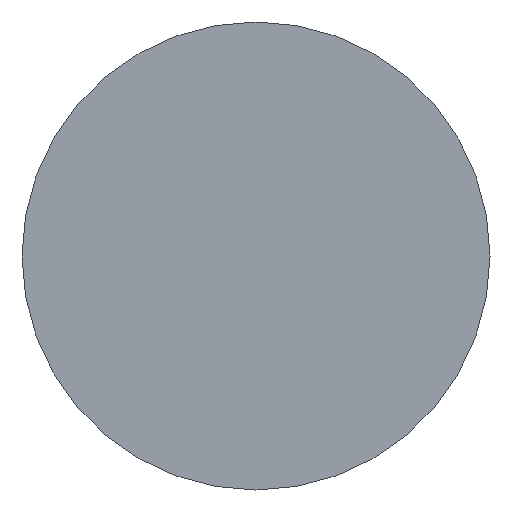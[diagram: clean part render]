
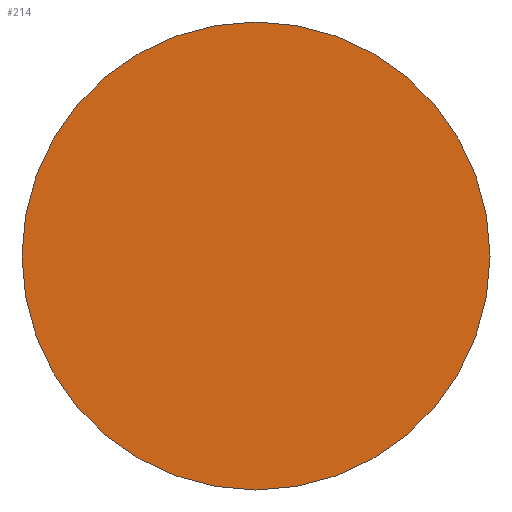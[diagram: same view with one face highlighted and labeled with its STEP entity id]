
A CAD part, left-side view. The second image highlights one B-rep face of the part: STEP entity #214.
In plain terms, the highlighted planar face has unit normal (-1, 0, 0).
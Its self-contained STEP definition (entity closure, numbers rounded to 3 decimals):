
#16 = AXIS2_PLACEMENT_3D ( 'NONE', #77, #64, #17 ) ;
#17 = DIRECTION ( 'NONE',  ( 0., 0., 1. ) ) ;
#19 = DIRECTION ( 'NONE',  ( 0., 0., -1. ) ) ;
#25 = CIRCLE ( 'NONE', #92, 4.5 ) ;
#26 = DIRECTION ( 'NONE',  ( -1., 0., 0. ) ) ;
#35 = CARTESIAN_POINT ( 'NONE',  ( 0., 0., 4.5 ) ) ;
#49 = CIRCLE ( 'NONE', #16, 4.5 ) ;
#64 = DIRECTION ( 'NONE',  ( -1., 0., 0. ) ) ;
#76 = EDGE_LOOP ( 'NONE', ( #115, #95 ) ) ;
#77 = CARTESIAN_POINT ( 'NONE',  ( 0., 0., 0. ) ) ;
#80 = DIRECTION ( 'NONE',  ( 1., 0., 0. ) ) ;
#92 = AXIS2_PLACEMENT_3D ( 'NONE', #141, #26, #134 ) ;
#95 = ORIENTED_EDGE ( 'NONE', *, *, #96, .T. ) ;
#96 = EDGE_CURVE ( 'NONE', #283, #223, #25, .T. ) ;
#99 = CARTESIAN_POINT ( 'NONE',  ( 0., 0., 0. ) ) ;
#115 = ORIENTED_EDGE ( 'NONE', *, *, #221, .T. ) ;
#116 = PLANE ( 'NONE',  #181 ) ;
#134 = DIRECTION ( 'NONE',  ( 0., 0., 1. ) ) ;
#141 = CARTESIAN_POINT ( 'NONE',  ( 0., 0., 0. ) ) ;
#179 = FACE_OUTER_BOUND ( 'NONE', #76, .T. ) ;
#181 = AXIS2_PLACEMENT_3D ( 'NONE', #99, #80, #19 ) ;
#207 = CARTESIAN_POINT ( 'NONE',  ( 0., 0., -4.5 ) ) ;
#214 = ADVANCED_FACE ( 'NONE', ( #179 ), #116, .F. ) ;
#221 = EDGE_CURVE ( 'NONE', #223, #283, #49, .T. ) ;
#223 = VERTEX_POINT ( 'NONE', #35 ) ;
#283 = VERTEX_POINT ( 'NONE', #207 ) ;
